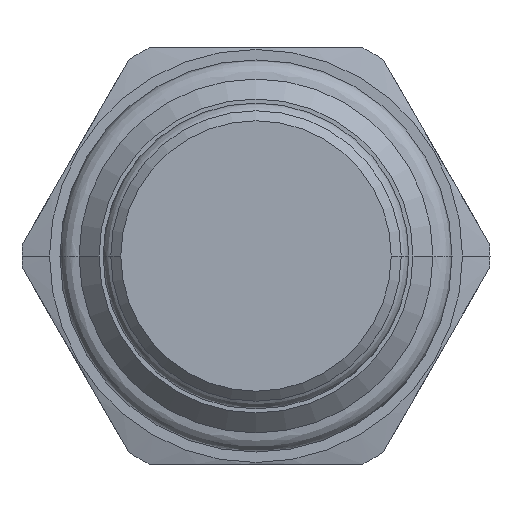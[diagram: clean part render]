
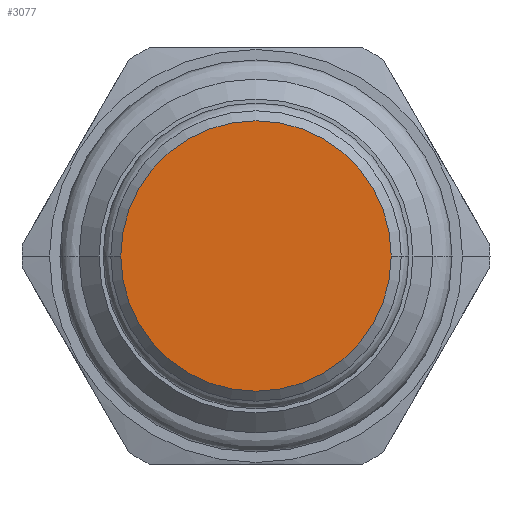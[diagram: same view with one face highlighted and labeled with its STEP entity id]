
A CAD part, front view. The second image highlights one B-rep face of the part: STEP entity #3077.
In plain terms, the highlighted planar face has unit normal (0, -1, 0).
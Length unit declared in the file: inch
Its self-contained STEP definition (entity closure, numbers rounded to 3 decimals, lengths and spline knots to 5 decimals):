
#1198=CARTESIAN_POINT('',(0.,-1.8125,0.));
#1199=DIRECTION('',(0.,-1.,0.));
#1200=DIRECTION('',(-1.,0.,0.));
#1201=AXIS2_PLACEMENT_3D('',#1198,#1199,#1200);
#1208=CARTESIAN_POINT('',(0.,-1.8125,0.));
#1209=DIRECTION('',(0.,-1.,0.));
#1210=DIRECTION('',(1.,0.,0.));
#1211=AXIS2_PLACEMENT_3D('',#1208,#1209,#1210);
#1293=CARTESIAN_POINT('',(-0.406,-1.8125,0.));
#1294=CARTESIAN_POINT('',(0.406,-1.8125,0.));
#1295=VERTEX_POINT('',#1293);
#1296=VERTEX_POINT('',#1294);
#3067=CARTESIAN_POINT('',(0.,-1.8125,0.));
#3068=DIRECTION('',(0.,-1.,0.));
#3069=DIRECTION('',(1.,0.,0.));
#3070=AXIS2_PLACEMENT_3D('',#3067,#3068,#3069);
#3071=PLANE('',#3070);
#3073=ORIENTED_EDGE('',*,*,#3072,.F.);
#3074=ORIENTED_EDGE('',*,*,#3057,.F.);
#3075=EDGE_LOOP('',(#3073,#3074));
#3076=FACE_OUTER_BOUND('',#3075,.F.);
#3077=ADVANCED_FACE('',(#3076),#3071,.T.);
#1202=CIRCLE('',#1201,0.406);
#1212=CIRCLE('',#1211,0.406);
#3057=EDGE_CURVE('',#1295,#1296,#1202,.T.);
#3072=EDGE_CURVE('',#1296,#1295,#1212,.T.);
